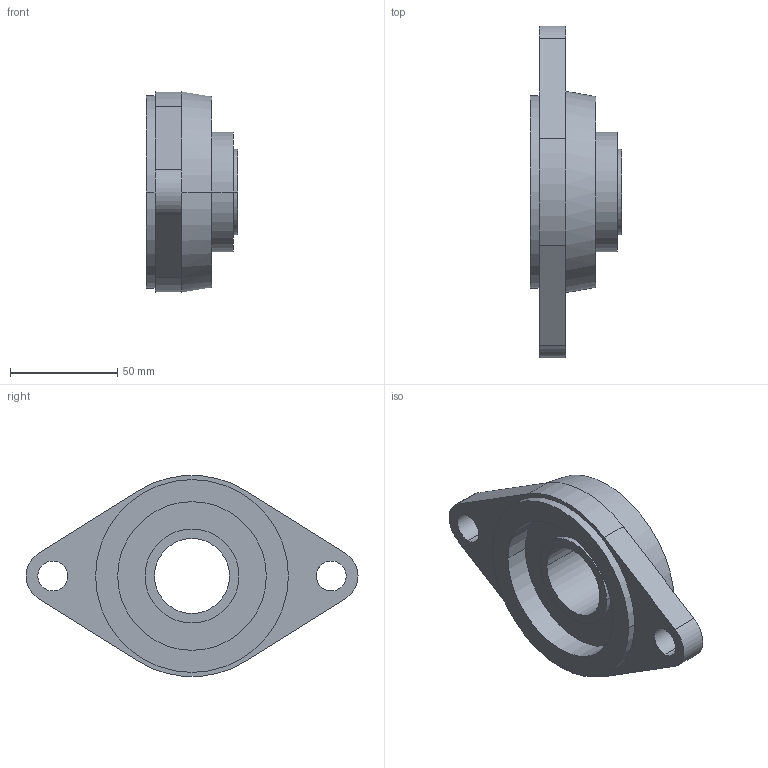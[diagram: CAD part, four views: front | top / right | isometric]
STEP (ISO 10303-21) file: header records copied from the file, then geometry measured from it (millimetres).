
FILE_DESCRIPTION(('SolidDesigner STEP Export'),'2;1');
FILE_NAME('Flanschlager_RCJTZA_35.stp','2002-07-16T10:24:09',(''),(''),'SolidDesigner STEP processor Version: 9.0 (March 2001)for AP214(CD)(Solid Model)','CoCreate SolidDesigner: 11.00 12-Dec-2001(C) CoCreate Software GmbH','');
FILE_SCHEMA(('AUTOMOTIVE_DESIGN_CC2 {1 2 10303 214 -1 1 5 1}'));
Length unit declared in the file: millimetre
Products named in the file (1): Flanschlager_RCJTZA_35
Bounding box: 42.5 x 155 x 93.7 mm (x, y, z)
Volume: 185881.4 mm3; surface area: 35163.3 mm2
Topology: 1 solids, 1 shells, 35 faces, 81 edges, 53 vertices
Faces by surface type: cylinder 18, plane 13, cone 4
Entity records: 902 total; most frequent: ORIENTED_EDGE 162, CARTESIAN_POINT 140, DIRECTION 140, EDGE_CURVE 81, AXIS2_PLACEMENT_3D 53, VERTEX_POINT 53, EDGE_LOOP 46, FACE_OUTER_BOUND 35
